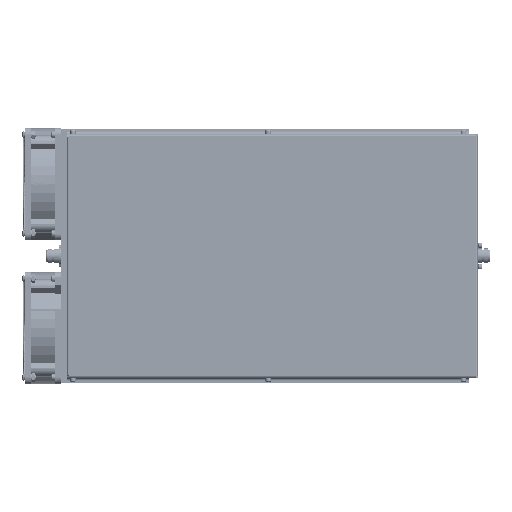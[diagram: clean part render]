
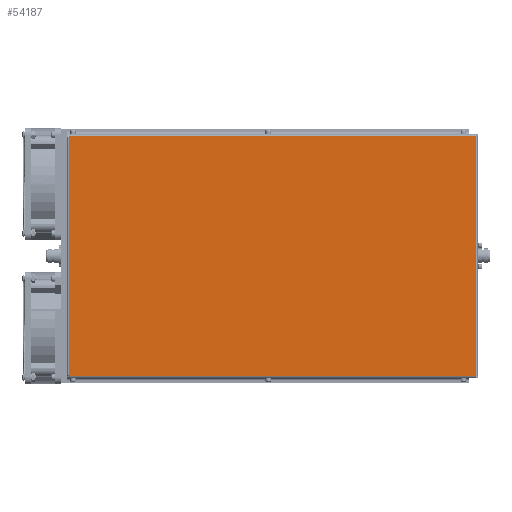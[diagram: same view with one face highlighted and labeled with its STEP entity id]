
A CAD part, left-side view. The second image highlights one B-rep face of the part: STEP entity #54187.
In plain terms, the highlighted planar face has unit normal (-1, 0, 0).
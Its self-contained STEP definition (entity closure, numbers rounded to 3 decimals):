
#1135=LINE('',#112916,#5170);
#1141=LINE('',#112936,#5176);
#1393=LINE('',#113945,#5428);
#1394=LINE('',#113947,#5429);
#1395=LINE('',#113950,#5430);
#1396=LINE('',#113951,#5431);
#1397=LINE('',#113953,#5432);
#1398=LINE('',#113955,#5433);
#1399=LINE('',#113956,#5434);
#1400=LINE('',#113958,#5435);
#5170=VECTOR('',#92333,1000.);
#5176=VECTOR('',#92347,1000.);
#5428=VECTOR('',#93171,1000.);
#5429=VECTOR('',#93174,1000.);
#5430=VECTOR('',#93175,1000.);
#5431=VECTOR('',#93176,1000.);
#5432=VECTOR('',#93177,1000.);
#5433=VECTOR('',#93178,1000.);
#5434=VECTOR('',#93179,1000.);
#5435=VECTOR('',#93180,1000.);
#10296=PLANE('',#84385);
#15383=ORIENTED_EDGE('',*,*,#29017,.F.);
#15384=ORIENTED_EDGE('',*,*,#29018,.T.);
#15385=ORIENTED_EDGE('',*,*,#28565,.T.);
#15386=ORIENTED_EDGE('',*,*,#29019,.T.);
#15387=ORIENTED_EDGE('',*,*,#29020,.T.);
#15388=ORIENTED_EDGE('',*,*,#29021,.T.);
#15389=ORIENTED_EDGE('',*,*,#28555,.T.);
#15390=ORIENTED_EDGE('',*,*,#29016,.F.);
#15391=ORIENTED_EDGE('',*,*,#29022,.F.);
#15392=ORIENTED_EDGE('',*,*,#29023,.T.);
#28555=EDGE_CURVE('',#43977,#43976,#1135,.T.);
#28565=EDGE_CURVE('',#43987,#43986,#1141,.T.);
#29016=EDGE_CURVE('',#44321,#43976,#1393,.T.);
#29017=EDGE_CURVE('',#44322,#44323,#1394,.T.);
#29018=EDGE_CURVE('',#44322,#43987,#1395,.T.);
#29019=EDGE_CURVE('',#43986,#44324,#1396,.T.);
#29020=EDGE_CURVE('',#44324,#44325,#1397,.T.);
#29021=EDGE_CURVE('',#44325,#43977,#1398,.T.);
#29022=EDGE_CURVE('',#44326,#44321,#1399,.T.);
#29023=EDGE_CURVE('',#44326,#44323,#1400,.T.);
#38142=EDGE_LOOP('',(#15383,#15384,#15385,#15386,#15387,#15388,#15389,#15390,
#15391,#15392));
#43976=VERTEX_POINT('',#112915);
#43977=VERTEX_POINT('',#112917);
#43986=VERTEX_POINT('',#112935);
#43987=VERTEX_POINT('',#112937);
#44321=VERTEX_POINT('',#113944);
#44322=VERTEX_POINT('',#113948);
#44323=VERTEX_POINT('',#113949);
#44324=VERTEX_POINT('',#113952);
#44325=VERTEX_POINT('',#113954);
#44326=VERTEX_POINT('',#113957);
#49083=FACE_BOUND('',#38142,.T.);
#54187=ADVANCED_FACE('',(#49083),#10296,.T.);
#84385=AXIS2_PLACEMENT_3D('',#113946,#93172,#93173);
#92333=DIRECTION('',(0.,0.,-1.));
#92347=DIRECTION('',(0.,0.,-1.));
#93171=DIRECTION('',(0.,1.,0.));
#93172=DIRECTION('',(-1.,0.,0.));
#93173=DIRECTION('',(0.,0.,1.));
#93174=DIRECTION('',(0.,0.,1.));
#93175=DIRECTION('',(0.,1.,0.));
#93176=DIRECTION('',(0.,-1.,0.));
#93177=DIRECTION('',(0.,0.,1.));
#93178=DIRECTION('',(0.,1.,0.));
#93179=DIRECTION('',(0.,0.,1.));
#93180=DIRECTION('',(0.,0.,-1.));
#112915=CARTESIAN_POINT('',(-120.494,426.72,194.539));
#112916=CARTESIAN_POINT('',(-120.494,426.72,196.723));
#112917=CARTESIAN_POINT('',(-120.494,426.72,194.742));
#112935=CARTESIAN_POINT('',(-120.494,426.72,-59.36));
#112936=CARTESIAN_POINT('',(-120.494,426.72,196.723));
#112937=CARTESIAN_POINT('',(-120.494,426.72,-59.157));
#113944=CARTESIAN_POINT('',(-120.494,424.739,194.539));
#113945=CARTESIAN_POINT('',(-120.494,426.72,194.539));
#113946=CARTESIAN_POINT('',(-120.494,-7.264,196.723));
#113947=CARTESIAN_POINT('',(-120.494,424.739,194.539));
#113948=CARTESIAN_POINT('',(-120.494,424.739,-59.157));
#113949=CARTESIAN_POINT('',(-120.494,424.739,-58.191));
#113950=CARTESIAN_POINT('',(-120.494,426.72,-59.157));
#113951=CARTESIAN_POINT('',(-120.494,426.72,-59.36));
#113952=CARTESIAN_POINT('',(-120.494,-6.858,-59.36));
#113953=CARTESIAN_POINT('',(-120.494,-6.858,-61.341));
#113954=CARTESIAN_POINT('',(-120.494,-6.858,194.742));
#113955=CARTESIAN_POINT('',(-120.494,-6.858,194.742));
#113956=CARTESIAN_POINT('',(-120.494,424.739,194.539));
#113957=CARTESIAN_POINT('',(-120.494,424.739,193.573));
#113958=CARTESIAN_POINT('',(-120.494,424.739,193.573));
